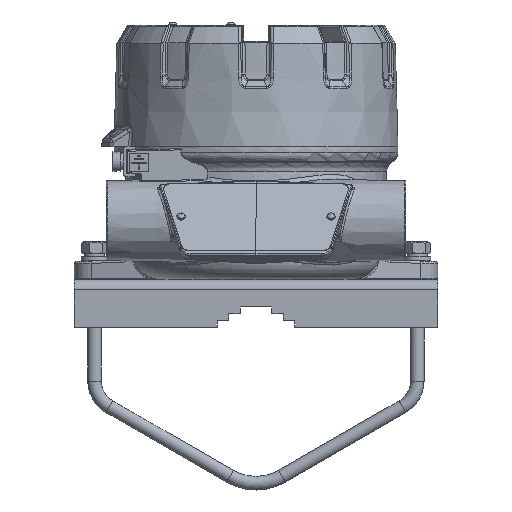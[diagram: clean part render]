
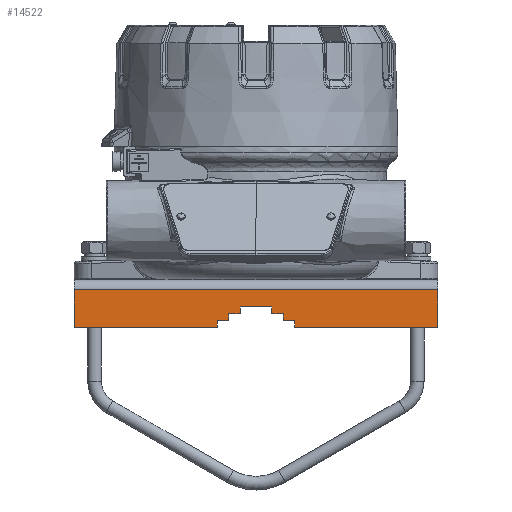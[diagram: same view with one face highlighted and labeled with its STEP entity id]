
A CAD part, front view. The second image highlights one B-rep face of the part: STEP entity #14522.
In plain terms, the highlighted planar face has unit normal (0, -1, 0).
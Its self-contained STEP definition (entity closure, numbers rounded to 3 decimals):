
#14522=ADVANCED_FACE('',(#61237),#61239,.F.);
#61237=FACE_BOUND('',#61238,.T.);
#61238=EDGE_LOOP('',(#69286,#69287,#69288,#69289,#69290,#69291,#69292,#69293,#69294,
#69295,#69296,#69297,#69298,#69299,#69300,#69301));
#61239=PLANE('',#61240);
#61240=AXIS2_PLACEMENT_3D('',#61241,#61242,#61243);
#61241=CARTESIAN_POINT('',(80.,-24.,-3.345));
#61242=DIRECTION('',(0.,1.,0.));
#61243=DIRECTION('',(-1.,0.,0.));
#69286=ORIENTED_EDGE('',*,*,#73318,.T.);
#69287=ORIENTED_EDGE('',*,*,#73319,.F.);
#69288=ORIENTED_EDGE('',*,*,#73320,.F.);
#69289=ORIENTED_EDGE('',*,*,#73278,.T.);
#69290=ORIENTED_EDGE('',*,*,#73321,.F.);
#69291=ORIENTED_EDGE('',*,*,#73322,.F.);
#69292=ORIENTED_EDGE('',*,*,#73323,.T.);
#69293=ORIENTED_EDGE('',*,*,#73324,.T.);
#69294=ORIENTED_EDGE('',*,*,#73325,.T.);
#69295=ORIENTED_EDGE('',*,*,#73326,.T.);
#69296=ORIENTED_EDGE('',*,*,#73327,.T.);
#69297=ORIENTED_EDGE('',*,*,#73328,.T.);
#69298=ORIENTED_EDGE('',*,*,#73329,.T.);
#69299=ORIENTED_EDGE('',*,*,#73330,.T.);
#69300=ORIENTED_EDGE('',*,*,#73331,.T.);
#69301=ORIENTED_EDGE('',*,*,#73332,.T.);
#73278=EDGE_CURVE('',#79524,#79525,#79526,.T.);
#73318=EDGE_CURVE('',#79596,#79597,#79598,.T.);
#73319=EDGE_CURVE('',#79599,#79597,#79600,.T.);
#73320=EDGE_CURVE('',#79524,#79599,#79601,.T.);
#73321=EDGE_CURVE('',#79602,#79525,#79603,.T.);
#73322=EDGE_CURVE('',#79604,#79602,#79605,.T.);
#73323=EDGE_CURVE('',#79604,#79606,#79607,.T.);
#73324=EDGE_CURVE('',#79606,#79608,#79609,.T.);
#73325=EDGE_CURVE('',#79608,#79610,#79611,.T.);
#73326=EDGE_CURVE('',#79610,#79612,#79613,.T.);
#73327=EDGE_CURVE('',#79612,#79614,#79615,.T.);
#73328=EDGE_CURVE('',#79614,#79616,#79617,.T.);
#73329=EDGE_CURVE('',#79616,#79618,#79619,.T.);
#73330=EDGE_CURVE('',#79618,#79620,#79621,.T.);
#73331=EDGE_CURVE('',#79620,#79622,#79623,.T.);
#73332=EDGE_CURVE('',#79622,#79596,#79624,.T.);
#79524=VERTEX_POINT('',#119016);
#79525=VERTEX_POINT('',#119017);
#79526=LINE('',#119018,#119019);
#79596=VERTEX_POINT('',#119172);
#79597=VERTEX_POINT('',#119173);
#79598=LINE('',#119174,#119175);
#79599=VERTEX_POINT('',#119177);
#79600=LINE('',#119178,#119179);
#79601=LINE('',#119181,#119182);
#79602=VERTEX_POINT('',#119184);
#79603=LINE('',#119185,#119186);
#79604=VERTEX_POINT('',#119188);
#79605=LINE('',#119189,#119190);
#79606=VERTEX_POINT('',#119192);
#79607=LINE('',#119193,#119194);
#79608=VERTEX_POINT('',#119196);
#79609=LINE('',#119197,#119198);
#79610=VERTEX_POINT('',#119200);
#79611=LINE('',#119201,#119202);
#79612=VERTEX_POINT('',#119204);
#79613=LINE('',#119205,#119206);
#79614=VERTEX_POINT('',#119208);
#79615=LINE('',#119209,#119210);
#79616=VERTEX_POINT('',#119212);
#79617=LINE('',#119213,#119214);
#79618=VERTEX_POINT('',#119216);
#79619=LINE('',#119217,#119218);
#79620=VERTEX_POINT('',#119220);
#79621=LINE('',#119221,#119222);
#79622=VERTEX_POINT('',#119224);
#79623=LINE('',#119225,#119226);
#79624=LINE('',#119228,#119229);
#119016=CARTESIAN_POINT('',(80.,-24.,-4.5));
#119017=CARTESIAN_POINT('',(-80.,-24.,-4.5));
#119018=CARTESIAN_POINT('',(80.,-24.,-4.5));
#119019=VECTOR('',#119020,1.);
#119020=DIRECTION('',(-1.,0.,0.));
#119172=CARTESIAN_POINT('',(17.,-24.,-18.));
#119173=CARTESIAN_POINT('',(17.,-24.,-21.));
#119174=CARTESIAN_POINT('',(17.,-24.,-18.));
#119175=VECTOR('',#119176,1.);
#119176=DIRECTION('',(0.,0.,-1.));
#119177=CARTESIAN_POINT('',(80.,-24.,-21.));
#119178=CARTESIAN_POINT('',(80.,-24.,-21.));
#119179=VECTOR('',#119180,1.);
#119180=DIRECTION('',(-1.,0.,0.));
#119181=CARTESIAN_POINT('',(80.,-24.,-4.5));
#119182=VECTOR('',#119183,1.);
#119183=DIRECTION('',(0.,0.,-1.));
#119184=CARTESIAN_POINT('',(-80.,-24.,-21.));
#119185=CARTESIAN_POINT('',(-80.,-24.,-21.));
#119186=VECTOR('',#119187,1.);
#119187=DIRECTION('',(0.,0.,1.));
#119188=CARTESIAN_POINT('',(-17.,-24.,-21.));
#119189=CARTESIAN_POINT('',(-17.,-24.,-21.));
#119190=VECTOR('',#119191,1.);
#119191=DIRECTION('',(-1.,0.,0.));
#119192=CARTESIAN_POINT('',(-17.,-24.,-18.));
#119193=CARTESIAN_POINT('',(-17.,-24.,-21.));
#119194=VECTOR('',#119195,1.);
#119195=DIRECTION('',(0.,0.,1.));
#119196=CARTESIAN_POINT('',(-12.,-24.,-18.));
#119197=CARTESIAN_POINT('',(-17.,-24.,-18.));
#119198=VECTOR('',#119199,1.);
#119199=DIRECTION('',(1.,0.,0.));
#119200=CARTESIAN_POINT('',(-12.,-24.,-15.));
#119201=CARTESIAN_POINT('',(-12.,-24.,-18.));
#119202=VECTOR('',#119203,1.);
#119203=DIRECTION('',(0.,0.,1.));
#119204=CARTESIAN_POINT('',(-7.,-24.,-15.));
#119205=CARTESIAN_POINT('',(-12.,-24.,-15.));
#119206=VECTOR('',#119207,1.);
#119207=DIRECTION('',(1.,0.,0.));
#119208=CARTESIAN_POINT('',(-7.,-24.,-12.));
#119209=CARTESIAN_POINT('',(-7.,-24.,-15.));
#119210=VECTOR('',#119211,1.);
#119211=DIRECTION('',(0.,0.,1.));
#119212=CARTESIAN_POINT('',(7.,-24.,-12.));
#119213=CARTESIAN_POINT('',(-7.,-24.,-12.));
#119214=VECTOR('',#119215,1.);
#119215=DIRECTION('',(1.,0.,0.));
#119216=CARTESIAN_POINT('',(7.,-24.,-15.));
#119217=CARTESIAN_POINT('',(7.,-24.,-12.));
#119218=VECTOR('',#119219,1.);
#119219=DIRECTION('',(0.,0.,-1.));
#119220=CARTESIAN_POINT('',(12.,-24.,-15.));
#119221=CARTESIAN_POINT('',(7.,-24.,-15.));
#119222=VECTOR('',#119223,1.);
#119223=DIRECTION('',(1.,0.,0.));
#119224=CARTESIAN_POINT('',(12.,-24.,-18.));
#119225=CARTESIAN_POINT('',(12.,-24.,-15.));
#119226=VECTOR('',#119227,1.);
#119227=DIRECTION('',(0.,0.,-1.));
#119228=CARTESIAN_POINT('',(12.,-24.,-18.));
#119229=VECTOR('',#119230,1.);
#119230=DIRECTION('',(1.,0.,0.));
